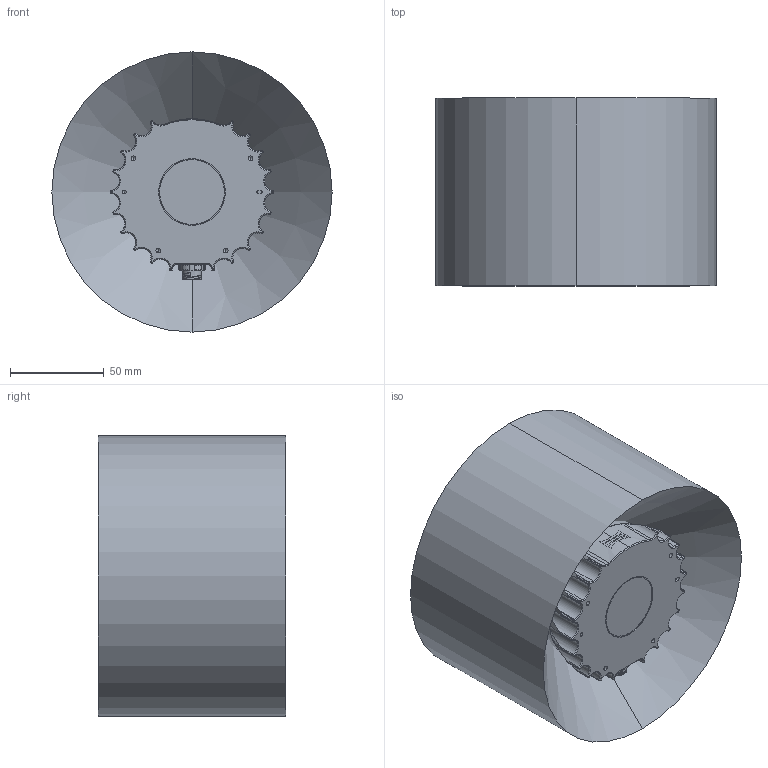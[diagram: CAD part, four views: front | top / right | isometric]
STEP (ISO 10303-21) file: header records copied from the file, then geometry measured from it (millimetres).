
FILE_DESCRIPTION (( 'STEP AP214' ), '1' );
FILE_NAME ('700-108702-Rev 8.0 OS Exterior Spec-OS0 XX_04-29-2026A.STEP', '2026-04-29T22:36:42', ( '' ), ( '' ), 'SwSTEP 2.0', 'SolidWorks 2022', '' );
FILE_SCHEMA (( 'AUTOMOTIVE_DESIGN' ));
Length unit declared in the file: millimetre
Products named in the file (1): 700-108702-Rev 8.0 OS Exterior Spec-OS0 XX_04-29-2026A
Bounding box: 149.29 x 100 x 149.29 mm (x, y, z)
Volume: 1188784.6 mm3; surface area: 119557.4 mm2
Topology: 3 solids, 3 shells, 614 faces, 1748 edges, 1058 vertices
Faces by surface type: bspline 239, cylinder 162, cone 146, plane 67
Entity records: 46434 total; most frequent: CARTESIAN_POINT 26533, ORIENTED_EDGE 3372, DIRECTION 1882, EDGE_CURVE 1686, VERTEX_POINT 1058, B_SPLINE_CURVE_WITH_KNOTS 815, AXIS2_PLACEMENT_3D 759, EDGE_LOOP 648
